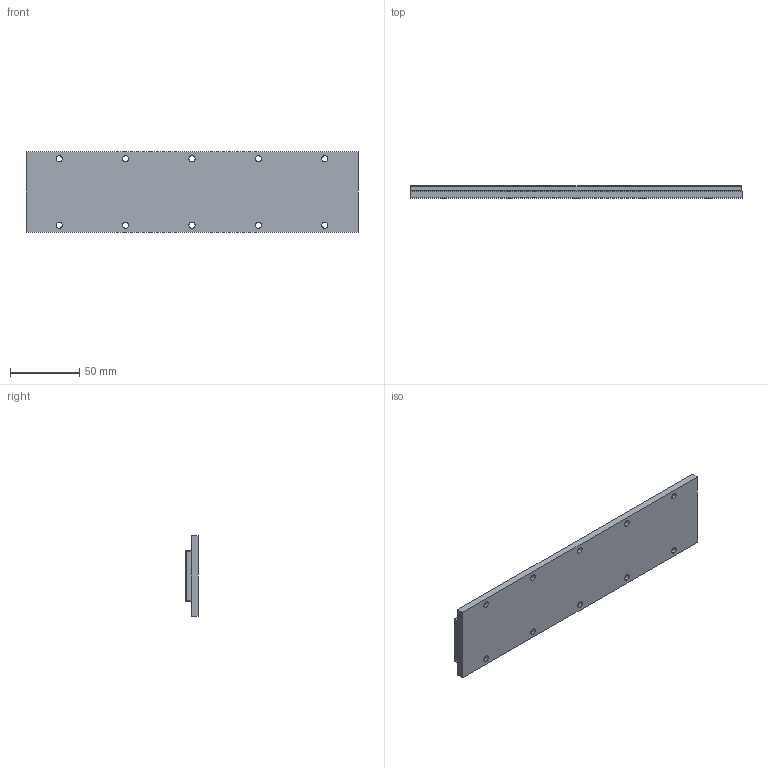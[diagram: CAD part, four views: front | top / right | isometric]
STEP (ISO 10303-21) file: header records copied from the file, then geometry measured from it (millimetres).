
FILE_DESCRIPTION (( 'STEP AP203' ), '1' );
FILE_NAME ('CS240.STEP', '2025-12-28T08:02:35', ( '' ), ( '' ), 'SwSTEP 2.0', 'SolidWorks 2024', '' );
FILE_SCHEMA (( 'CONFIG_CONTROL_DESIGN' ));
Length unit declared in the file: millimetre
Products named in the file (1): CS240
Bounding box: 240 x 8.7 x 58 mm (x, y, z)
Volume: 100017.2 mm3; surface area: 37244.9 mm2
Topology: 1 solids, 1 shells, 103 faces, 248 edges, 160 vertices
Faces by surface type: plane 47, cylinder 44, bspline 12
Entity records: 3343 total; most frequent: CARTESIAN_POINT 820, DIRECTION 496, ORIENTED_EDGE 496, EDGE_CURVE 248, AXIS2_PLACEMENT_3D 180, VERTEX_POINT 160, VECTOR 136, LINE 136
